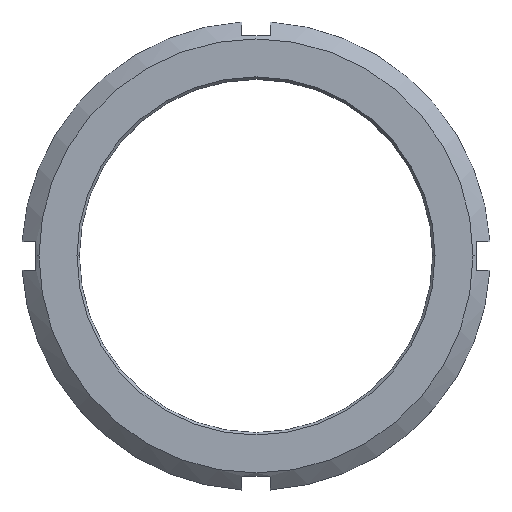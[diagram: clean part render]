
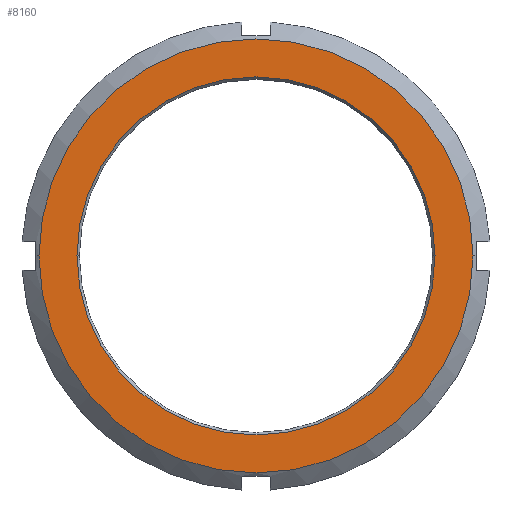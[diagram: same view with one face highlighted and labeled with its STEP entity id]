
A CAD part, top view. The second image highlights one B-rep face of the part: STEP entity #8160.
In plain terms, the highlighted planar face has unit normal (0, 0, 1).
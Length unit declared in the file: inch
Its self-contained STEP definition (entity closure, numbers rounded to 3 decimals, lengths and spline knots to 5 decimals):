
#49 = CARTESIAN_POINT ( 'NONE',  ( 24.59835, 6.28727, 0.8125 ) ) ;
#135 = CARTESIAN_POINT ( 'NONE',  ( 19.93585, 6.28727, 0.8125 ) ) ;
#138 = CARTESIAN_POINT ( 'NONE',  ( 25.09283, 6.28727, 0.8125 ) ) ;
#139 = CARTESIAN_POINT ( 'NONE',  ( 19.44137, 6.28727, 0.8125 ) ) ;
#517 = DIRECTION ( 'NONE',  ( 1., 0., 0. ) ) ;
#518 = DIRECTION ( 'NONE',  ( 0., 0., -1. ) ) ;
#527 = DIRECTION ( 'NONE',  ( 1., 0., 0. ) ) ;
#528 = DIRECTION ( 'NONE',  ( 0., 0., 1. ) ) ;
#529 = CARTESIAN_POINT ( 'NONE',  ( 22.2671, 6.28727, 0.8125 ) ) ;
#547 = CARTESIAN_POINT ( 'NONE',  ( 22.2671, 6.28727, 0.8125 ) ) ;
#792 = VERTEX_POINT ( 'NONE', #139 ) ;
#793 = VERTEX_POINT ( 'NONE', #138 ) ;
#796 = VERTEX_POINT ( 'NONE', #135 ) ;
#883 = VERTEX_POINT ( 'NONE', #49 ) ;
#1324 = CIRCLE ( 'NONE', #3249, 2.82573 ) ;
#1327 = CIRCLE ( 'NONE', #3245, 2.33125 ) ;
#1465 = CIRCLE ( 'NONE', #3287, 2.33125 ) ;
#3245 = AXIS2_PLACEMENT_3D ( 'NONE', #529, #518, #517 ) ;
#3249 = AXIS2_PLACEMENT_3D ( 'NONE', #547, #528, #527 ) ;
#3287 = AXIS2_PLACEMENT_3D ( 'NONE', #3772, #3778, #3779 ) ;
#3346 = AXIS2_PLACEMENT_3D ( 'NONE', #4366, #4369, #4370 ) ;
#3463 = EDGE_CURVE ( 'NONE', #792, #793, #1324, .T. ) ;
#3466 = EDGE_CURVE ( 'NONE', #796, #883, #1327, .T. ) ;
#3629 = EDGE_CURVE ( 'NONE', #883, #796, #1465, .T. ) ;
#3772 = CARTESIAN_POINT ( 'NONE',  ( 22.2671, 6.28727, 0.8125 ) ) ;
#3778 = DIRECTION ( 'NONE',  ( 0., 0., -1. ) ) ;
#3779 = DIRECTION ( 'NONE',  ( 1., 0., 0. ) ) ;
#4158 = CIRCLE ( 'NONE', #3346, 2.82573 ) ;
#4242 = FACE_BOUND ( 'NONE', #7751, .T. ) ;
#4245 = FACE_OUTER_BOUND ( 'NONE', #7744, .T. ) ;
#4306 = AXIS2_PLACEMENT_3D ( 'NONE', #6620, #6622, #6623 ) ;
#4366 = CARTESIAN_POINT ( 'NONE',  ( 22.2671, 6.28727, 0.8125 ) ) ;
#4369 = DIRECTION ( 'NONE',  ( 0., 0., 1. ) ) ;
#4370 = DIRECTION ( 'NONE',  ( 1., 0., 0. ) ) ;
#6620 = CARTESIAN_POINT ( 'NONE',  ( 22.2671, 6.28727, 0.8125 ) ) ;
#6621 = PLANE ( 'NONE',  #4306 ) ;
#6622 = DIRECTION ( 'NONE',  ( 0., 0., 1. ) ) ;
#6623 = DIRECTION ( 'NONE',  ( 1., 0., 0. ) ) ;
#7558 = ORIENTED_EDGE ( 'NONE', *, *, #7886, .T. ) ;
#7564 = ORIENTED_EDGE ( 'NONE', *, *, #3463, .T. ) ;
#7568 = ORIENTED_EDGE ( 'NONE', *, *, #3466, .T. ) ;
#7570 = ORIENTED_EDGE ( 'NONE', *, *, #3629, .T. ) ;
#7744 = EDGE_LOOP ( 'NONE', ( #7564, #7558 ) ) ;
#7751 = EDGE_LOOP ( 'NONE', ( #7570, #7568 ) ) ;
#7886 = EDGE_CURVE ( 'NONE', #793, #792, #4158, .T. ) ;
#8160 = ADVANCED_FACE ( 'NONE', ( #4242, #4245 ), #6621, .T. ) ;
